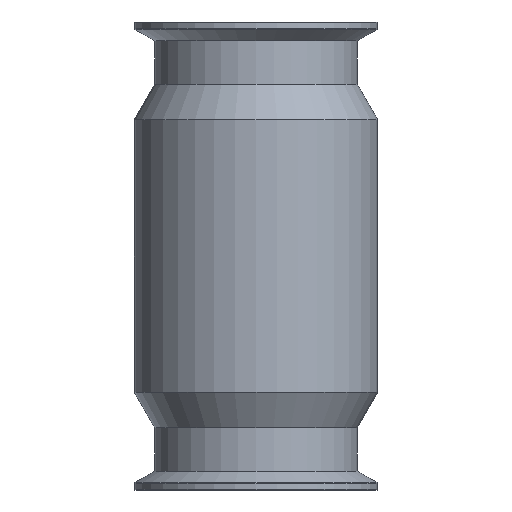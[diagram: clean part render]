
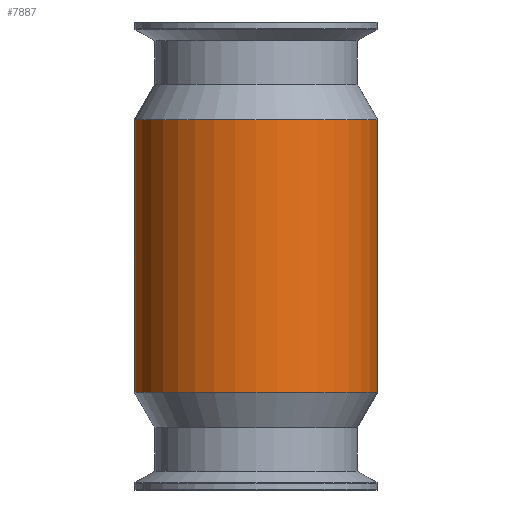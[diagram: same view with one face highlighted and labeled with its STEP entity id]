
A CAD part, front view. The second image highlights one B-rep face of the part: STEP entity #7887.
In plain terms, the highlighted cylindrical face has radius 39 mm (diameter 78 mm), a full revolution.
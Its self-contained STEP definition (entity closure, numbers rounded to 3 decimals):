
#6101=CYLINDRICAL_SURFACE('',#23724,39.);
#6912=B_SPLINE_CURVE_WITH_KNOTS('',3,(#44829,#44830,#44831,#44832),
 .UNSPECIFIED.,.F.,.F.,(4,4),(0.,1.),.UNSPECIFIED.);
#6913=B_SPLINE_CURVE_WITH_KNOTS('',3,(#44834,#44835,#44836,#44837),
 .UNSPECIFIED.,.F.,.F.,(4,4),(0.,1.),.UNSPECIFIED.);
#6914=B_SPLINE_CURVE_WITH_KNOTS('',3,(#44839,#44840,#44841,#44842),
 .UNSPECIFIED.,.F.,.F.,(4,4),(0.,1.),.UNSPECIFIED.);
#6915=B_SPLINE_CURVE_WITH_KNOTS('',3,(#44846,#44847,#44848,#44849),
 .UNSPECIFIED.,.F.,.F.,(4,4),(0.,1.),.UNSPECIFIED.);
#6916=B_SPLINE_CURVE_WITH_KNOTS('',3,(#44851,#44852,#44853,#44854),
 .UNSPECIFIED.,.F.,.F.,(4,4),(0.,1.),.UNSPECIFIED.);
#6917=B_SPLINE_CURVE_WITH_KNOTS('',3,(#44856,#44857,#44858,#44859),
 .UNSPECIFIED.,.F.,.F.,(4,4),(0.,1.),.UNSPECIFIED.);
#7887=ADVANCED_FACE('',(#8811,#8812,#8813),#6101,.T.);
#8811=FACE_BOUND('',#10067,.T.);
#8812=FACE_BOUND('',#10068,.T.);
#8813=FACE_BOUND('',#10069,.T.);
#10067=EDGE_LOOP('',(#15518));
#10068=EDGE_LOOP('',(#15519));
#10069=EDGE_LOOP('',(#15520,#15521,#15522,#15523,#15524,#15525,#15526,#15527));
#10798=CIRCLE('',#23722,39.);
#10799=CIRCLE('',#23723,39.);
#15518=ORIENTED_EDGE('',*,*,#19888,.T.);
#15519=ORIENTED_EDGE('',*,*,#19889,.T.);
#15520=ORIENTED_EDGE('',*,*,#19890,.T.);
#15521=ORIENTED_EDGE('',*,*,#19891,.T.);
#15522=ORIENTED_EDGE('',*,*,#19892,.T.);
#15523=ORIENTED_EDGE('',*,*,#19893,.T.);
#15524=ORIENTED_EDGE('',*,*,#19894,.T.);
#15525=ORIENTED_EDGE('',*,*,#19895,.T.);
#15526=ORIENTED_EDGE('',*,*,#19896,.T.);
#15527=ORIENTED_EDGE('',*,*,#19897,.T.);
#17467=VERTEX_POINT('',#44823);
#17468=VERTEX_POINT('',#44825);
#17469=VERTEX_POINT('',#44827);
#17470=VERTEX_POINT('',#44828);
#17471=VERTEX_POINT('',#44833);
#17472=VERTEX_POINT('',#44838);
#17473=VERTEX_POINT('',#44843);
#17474=VERTEX_POINT('',#44845);
#17475=VERTEX_POINT('',#44850);
#17476=VERTEX_POINT('',#44855);
#19888=EDGE_CURVE('',#17467,#17467,#10798,.T.);
#19889=EDGE_CURVE('',#17468,#17468,#10799,.T.);
#19890=EDGE_CURVE('',#17469,#17470,#21061,.T.);
#19891=EDGE_CURVE('',#17470,#17471,#6912,.T.);
#19892=EDGE_CURVE('',#17471,#17472,#6913,.T.);
#19893=EDGE_CURVE('',#17472,#17473,#6914,.T.);
#19894=EDGE_CURVE('',#17473,#17474,#21062,.T.);
#19895=EDGE_CURVE('',#17474,#17475,#6915,.T.);
#19896=EDGE_CURVE('',#17475,#17476,#6916,.T.);
#19897=EDGE_CURVE('',#17476,#17469,#6917,.T.);
#21061=LINE('',#44826,#22255);
#21062=LINE('',#44844,#22256);
#22255=VECTOR('',#27972,1.);
#22256=VECTOR('',#27973,1.);
#23722=AXIS2_PLACEMENT_3D('',#44822,#27968,#27969);
#23723=AXIS2_PLACEMENT_3D('',#44824,#27970,#27971);
#23724=AXIS2_PLACEMENT_3D('',#44860,#27974,#27975);
#27968=DIRECTION('',(0.,0.,1.));
#27969=DIRECTION('',(-1.,0.,0.));
#27970=DIRECTION('',(0.,0.,-1.));
#27971=DIRECTION('',(1.,0.,0.));
#27972=DIRECTION('',(0.,0.,1.));
#27973=DIRECTION('',(0.,0.,-1.));
#27974=DIRECTION('',(0.,0.,1.));
#27975=DIRECTION('',(-1.,0.,0.));
#44822=CARTESIAN_POINT('',(-0.031,-21.,-35.742));
#44823=CARTESIAN_POINT('',(-39.031,-21.,-35.742));
#44824=CARTESIAN_POINT('',(-0.031,-21.,51.742));
#44825=CARTESIAN_POINT('',(38.969,-21.,51.742));
#44826=CARTESIAN_POINT('',(8.744,17.,-3250.));
#44827=CARTESIAN_POINT('',(8.744,17.,-13.257));
#44828=CARTESIAN_POINT('',(8.744,17.,7.257));
#44829=CARTESIAN_POINT('',(8.744,17.,7.257));
#44830=CARTESIAN_POINT('',(7.537,17.279,9.04));
#44831=CARTESIAN_POINT('',(5.897,17.598,10.497));
#44832=CARTESIAN_POINT('',(3.913,17.8,11.366));
#44833=CARTESIAN_POINT('',(3.913,17.8,11.366));
#44834=CARTESIAN_POINT('',(3.913,17.8,11.366));
#44835=CARTESIAN_POINT('',(1.358,18.06,12.213));
#44836=CARTESIAN_POINT('',(-1.422,18.06,12.209));
#44837=CARTESIAN_POINT('',(-3.976,17.8,11.356));
#44838=CARTESIAN_POINT('',(-3.976,17.8,11.356));
#44839=CARTESIAN_POINT('',(-3.976,17.8,11.356));
#44840=CARTESIAN_POINT('',(-5.964,17.598,10.479));
#44841=CARTESIAN_POINT('',(-7.601,17.278,9.015));
#44842=CARTESIAN_POINT('',(-8.806,17.,7.221));
#44843=CARTESIAN_POINT('',(-8.806,17.,7.221));
#44844=CARTESIAN_POINT('',(-8.806,17.,-3250.));
#44845=CARTESIAN_POINT('',(-8.806,17.,-13.221));
#44846=CARTESIAN_POINT('',(-8.806,17.,-13.221));
#44847=CARTESIAN_POINT('',(-7.602,17.278,-15.013));
#44848=CARTESIAN_POINT('',(-5.962,17.598,-16.48));
#44849=CARTESIAN_POINT('',(-3.976,17.8,-17.356));
#44850=CARTESIAN_POINT('',(-3.976,17.8,-17.356));
#44851=CARTESIAN_POINT('',(-3.976,17.8,-17.356));
#44852=CARTESIAN_POINT('',(-1.422,18.06,-18.209));
#44853=CARTESIAN_POINT('',(1.358,18.06,-18.213));
#44854=CARTESIAN_POINT('',(3.913,17.8,-17.366));
#44855=CARTESIAN_POINT('',(3.913,17.8,-17.366));
#44856=CARTESIAN_POINT('',(3.913,17.8,-17.366));
#44857=CARTESIAN_POINT('',(5.899,17.598,-16.496));
#44858=CARTESIAN_POINT('',(7.536,17.279,-15.041));
#44859=CARTESIAN_POINT('',(8.744,17.,-13.257));
#44860=CARTESIAN_POINT('',(-0.031,-21.,-3250.));
